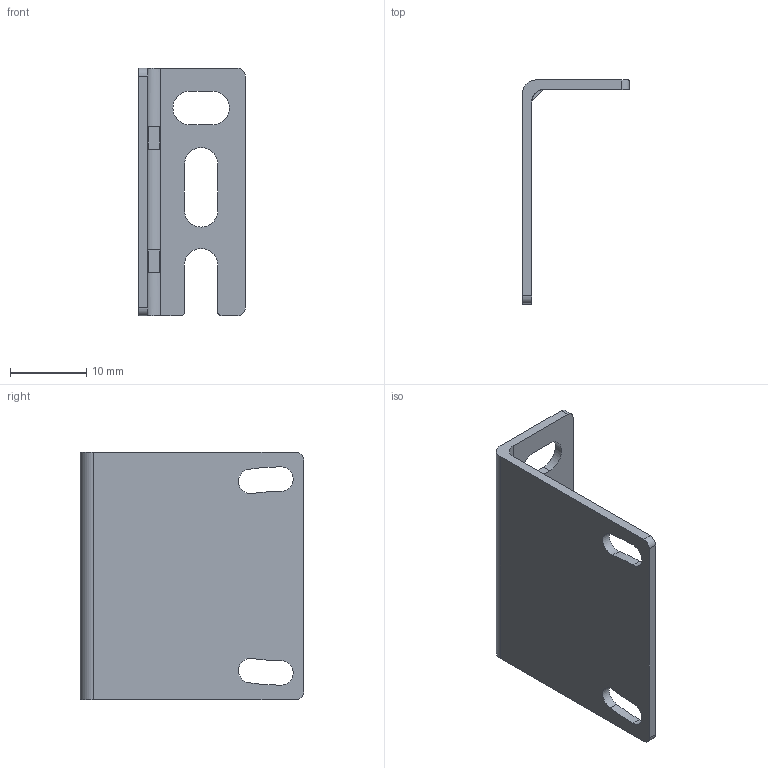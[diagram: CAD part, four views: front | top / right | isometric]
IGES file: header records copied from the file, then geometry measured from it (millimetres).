
Start section: Elysium IGES Interface
Global section: file name: C:\Users\k-yamauchi\Desktop\BEF-W100-A.igs; native system: CoCreate Modeling 16.50A  01-Dec-2009; preprocessor: CoCreate IGES_3D V2.2; author: Unknown; organization: Unknown; date: 20121126.130148; units: millimetre
Bounding box: 14 x 29.3 x 32.4 mm (x, y, z)
Volume: 1461.5 mm3; surface area: 2677 mm2
Topology: 1 solids, 1 shells, 46 faces, 126 edges, 84 vertices
Faces by surface type: bspline 46
